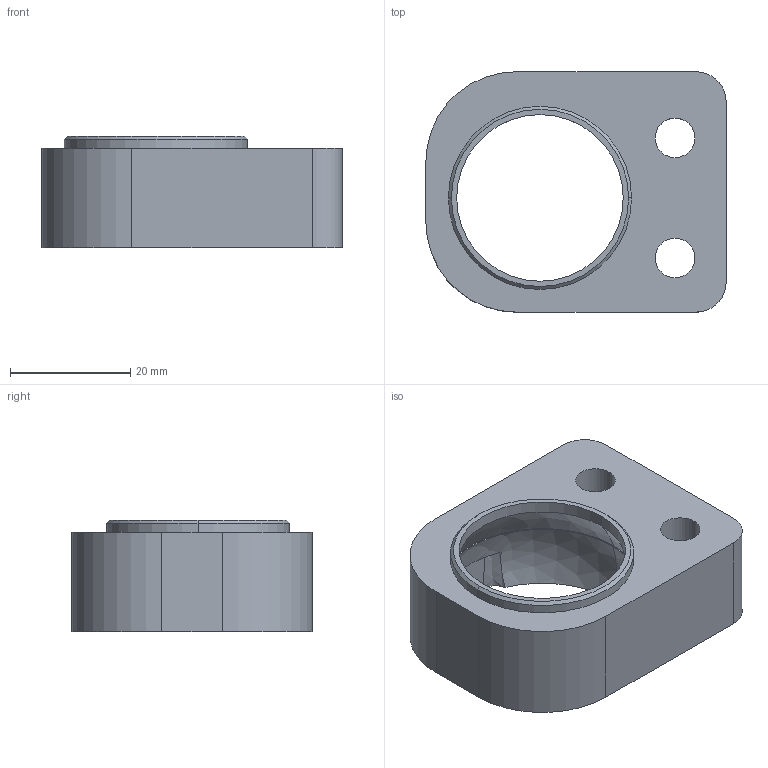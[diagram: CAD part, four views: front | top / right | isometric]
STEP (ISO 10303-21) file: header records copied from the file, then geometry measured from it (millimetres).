
FILE_DESCRIPTION (( 'STEP AP203' ), '1' );
FILE_NAME ('084.801.025.STEP', '2013-01-29T09:36:57', ( 'Alusic' ), ( 'Alusic' ), 'SwSTEP 2.0', 'SolidWorks 2011', '' );
FILE_SCHEMA (( 'CONFIG_CONTROL_DESIGN' ));
Length unit declared in the file: millimetre
Products named in the file (1): 084.801.025
Bounding box: 50 x 40 x 18.5 mm (x, y, z)
Volume: 15083.8 mm3; surface area: 7885 mm2
Topology: 1 solids, 1 shells, 40 faces, 98 edges, 64 vertices
Faces by surface type: cylinder 16, plane 14, sphere 4, bspline 4, cone 2
Entity records: 1467 total; most frequent: CARTESIAN_POINT 419, DIRECTION 212, ORIENTED_EDGE 196, EDGE_CURVE 98, AXIS2_PLACEMENT_3D 89, VERTEX_POINT 64, CIRCLE 52, EDGE_LOOP 50
